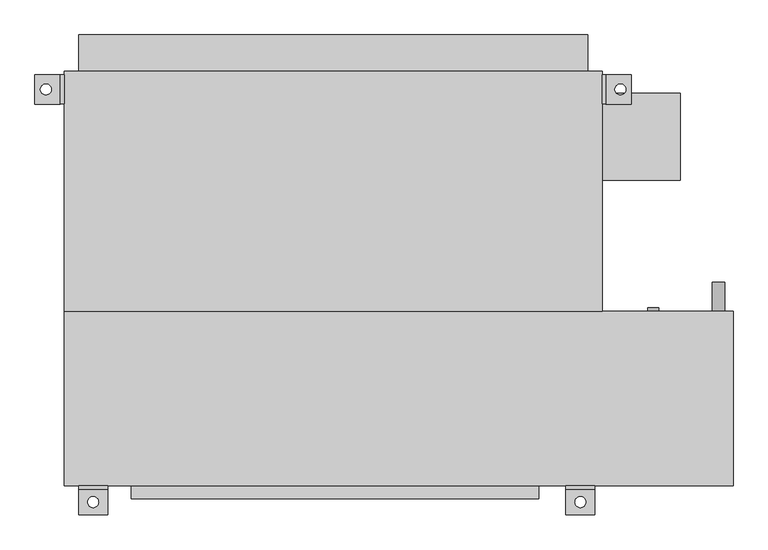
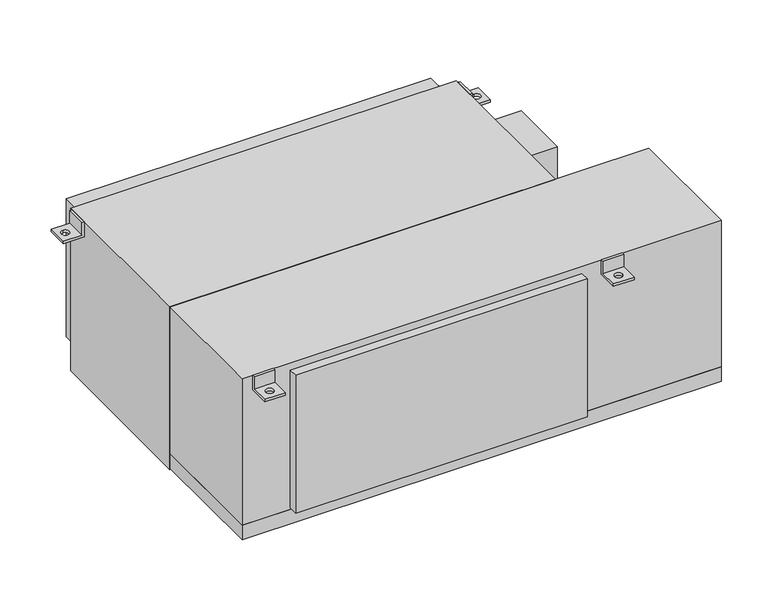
"""IFC4 building model written with IfcOpenShell, lengths in millimetres: proxy geometry, Concealed_High_Capacity_Horizontal_Fan_Coil_Unit_With_Plenum_-_42DCA_-_CARRIER_-_2-Pipe_Cool-EHeat_ValveEnclosure_RH_2022 : Size 12 - 277v/60Hz/1Ph - 6 Row 9.0kW."""

import ifcopenshell
import ifcopenshell.guid

model = None  # the IFC model being written
_history = None  # IfcOwnerHistory: only IFC2X3 demands one
_inside = {}  # id of a spatial element -> (the spatial element, [elements in it])
_under = {}  # id of a project, library or spatial element -> (it, [spatial elements below it])
_declared = {}  # id of a project -> (the project, [libraries it declares])
_typed = {}  # id of a type object -> (the type object, [elements of that type])
_made_of = {}  # id of a material, layer set ... -> (it, [elements and type objects made of it])


def new_model(schema):
    """Start an empty IFC model of exactly this schema.

    Asked for "IFC4X3", IfcOpenShell would pick the latest addendum, in which some entities
    have other attributes; the version numbers below select the first issue.
    IFC2X3 requires an IfcOwnerHistory on every rooted entity: one is made here for all.
    """
    global model, _history
    if schema == "IFC4X3":
        model = ifcopenshell.file(schema_version=(4, 3, 0, 0))
    else:
        model = ifcopenshell.file(schema=schema)
    _inside.clear()
    _under.clear()
    _declared.clear()
    _typed.clear()
    _made_of.clear()
    _history = None
    if model.schema == "IFC2X3":
        org = make("IfcOrganization", Name="unknown")
        user = make(
            "IfcPersonAndOrganization",
            ThePerson=make("IfcPerson", FamilyName="unknown"),
            TheOrganization=org,
        )
        app = make(
            "IfcApplication",
            ApplicationDeveloper=org,
            Version="unknown",
            ApplicationFullName="unknown",
            ApplicationIdentifier="unknown",
        )
        _history = make(
            "IfcOwnerHistory",
            OwningUser=user,
            OwningApplication=app,
            ChangeAction="ADDED",
            CreationDate=0,
        )
    return model


def make(cls, **values):
    """One entity of the class cls with the attributes given. An attribute that is None is left unset."""
    return model.create_entity(
        cls, **{name: value for name, value in values.items() if value is not None}
    )


def rooted(cls, **values):
    """An entity with a GlobalId (a new one), such as an element, a storey or a relation."""
    return make(cls, GlobalId=ifcopenshell.guid.new(), OwnerHistory=_history, **values)


def si_unit(unit_type, name, prefix=None):
    """IfcSIUnit, for example si_unit("LENGTHUNIT", "METRE", prefix="MILLI")."""
    return make("IfcSIUnit", UnitType=unit_type, Prefix=prefix, Name=name)


def assignment(units):
    """IfcUnitAssignment: the units of a project."""
    return None if units is None else make("IfcUnitAssignment", Units=units)


def point(xyz):
    """IfcCartesianPoint."""
    return None if xyz is None else make("IfcCartesianPoint", Coordinates=xyz)


def direction(xyz):
    """IfcDirection."""
    return None if xyz is None else make("IfcDirection", DirectionRatios=xyz)


def frame(location, z_axis=None, x_axis=None):
    """IfcAxis2Placement3D, a coordinate frame: its origin and axes. An axis left out is left unset."""
    return make(
        "IfcAxis2Placement3D",
        Location=point(location),
        Axis=direction(z_axis),
        RefDirection=direction(x_axis),
    )


def frame_2d(location, x_axis=None):
    """IfcAxis2Placement2D, a coordinate frame in the plane: its origin and x axis."""
    return make(
        "IfcAxis2Placement2D", Location=point(location), RefDirection=direction(x_axis)
    )


def origin():
    """The frame at (0, 0, 0) with its axes left unset."""
    return frame((0.0, 0.0, 0.0))


def place(relative_to, where):
    """IfcLocalPlacement: puts the frame where relative to a parent placement (None: the world)."""
    return make(
        "IfcLocalPlacement", PlacementRelTo=relative_to, RelativePlacement=where
    )


def context(
    kind, dimensions, precision=None, world=None, true_north=None, identifier=None
):
    """IfcGeometricRepresentationContext, for example the 3D "Model" context."""
    return make(
        "IfcGeometricRepresentationContext",
        ContextIdentifier=identifier,
        ContextType=kind,
        CoordinateSpaceDimension=dimensions,
        Precision=precision,
        WorldCoordinateSystem=world,
        TrueNorth=true_north,
    )


def project(units=None, contexts=None):
    """IfcProject with its units and contexts."""
    return rooted(
        "IfcProject",
        Name="project",
        RepresentationContexts=contexts,
        UnitsInContext=assignment(units),
    )


def spatial(cls, under=None, at=None, **own):
    """A site, building, storey or space (cls), placed at a placement, below another one or the project."""
    s = rooted(cls, ObjectPlacement=at, **own)
    if under is not None:
        _under.setdefault(under.id(), (under, []))[1].append(s)
    return s


def polyline(points):
    """IfcPolyline through the points."""
    return make("IfcPolyline", Points=[point(p) for p in points])


def circle_curve(where, radius):
    """IfcCircle in the frame where."""
    return make("IfcCircle", Position=where, Radius=radius)


def trimmed(basis, trim1, trim2, sense, master):
    """IfcTrimmedCurve: the piece of a basis curve between two trims."""
    return make(
        "IfcTrimmedCurve",
        BasisCurve=basis,
        Trim1=trim1,
        Trim2=trim2,
        SenseAgreement=sense,
        MasterRepresentation=master,
    )


def segment(curve, same_sense, transition):
    """IfcCompositeCurveSegment."""
    return make(
        "IfcCompositeCurveSegment",
        Transition=transition,
        SameSense=same_sense,
        ParentCurve=curve,
    )


def composite_curve(segments, self_intersect=None):
    """IfcCompositeCurve: segments joined end to end."""
    return make("IfcCompositeCurve", Segments=segments, SelfIntersect=self_intersect)


def outline(outer, holes=None, kind="AREA"):
    """IfcArbitraryClosedProfileDef: a profile drawn as a closed curve; with holes, ...WithVoids."""
    if holes is None:
        return make("IfcArbitraryClosedProfileDef", ProfileType=kind, OuterCurve=outer)
    return make(
        "IfcArbitraryProfileDefWithVoids",
        ProfileType=kind,
        OuterCurve=outer,
        InnerCurves=holes,
    )


def extrude(swept, where, along, depth):
    """IfcExtrudedAreaSolid: the profile swept, set in the frame where, extruded along a direction by depth."""
    return make(
        "IfcExtrudedAreaSolid",
        SweptArea=swept,
        Position=where,
        ExtrudedDirection=direction(along),
        Depth=depth,
    )


def shape(context_of_items, identifier, shape_type, items):
    """IfcShapeRepresentation: the items that make up one representation, for example the "Body"."""
    return make(
        "IfcShapeRepresentation",
        ContextOfItems=context_of_items,
        RepresentationIdentifier=identifier,
        RepresentationType=shape_type,
        Items=items,
    )


def source(mapping_origin, context_of_items, identifier, shape_type, items):
    """IfcRepresentationMap: a shape defined once, which mapped items show again and again."""
    return make(
        "IfcRepresentationMap",
        MappingOrigin=mapping_origin,
        MappedRepresentation=shape(context_of_items, identifier, shape_type, items),
    )


def transform(
    local_origin,
    x_axis=None,
    y_axis=None,
    z_axis=None,
    scale=None,
    scale2=None,
    scale3=None,
    uniform=True,
):
    """IfcCartesianTransformationOperator3D, or its non-uniform kind. x_axis, y_axis, z_axis: its Axis1, 2, 3."""
    if uniform:
        return make(
            "IfcCartesianTransformationOperator3D",
            Axis1=direction(x_axis),
            Axis2=direction(y_axis),
            LocalOrigin=point(local_origin),
            Scale=scale,
            Axis3=direction(z_axis),
        )
    return make(
        "IfcCartesianTransformationOperator3DnonUniform",
        Axis1=direction(x_axis),
        Axis2=direction(y_axis),
        LocalOrigin=point(local_origin),
        Scale=scale,
        Axis3=direction(z_axis),
        Scale2=scale2,
        Scale3=scale3,
    )


def mapped(mapping_source, mapping_target):
    """IfcMappedItem: shows the shape of a source again, moved by a transform."""
    return make(
        "IfcMappedItem", MappingSource=mapping_source, MappingTarget=mapping_target
    )


def made_of(thing, what):
    """Note that an element or type object is made of a material, layer set ...; save() writes the relation."""
    if what is not None:
        _made_of.setdefault(what.id(), (what, []))[1].append(thing)
    return thing


def element(
    cls,
    number,
    at=None,
    inside=None,
    cuts=None,
    type_object=None,
    material=None,
    context=None,
    identifier="Body",
    shape_type=None,
    held_by="IfcProductDefinitionShape",
    body=None,
    shapes=None,
    **own,
):
    """One element of the class cls, such as IfcWall. Its Tag is "e" and its number.

    at: its placement. inside: the storey or other place that contains it. cuts: it is an
    opening in that element (IfcRelVoidsElement). A single representation is given by context,
    identifier, shape_type and body (its items); several are given by shapes. held_by: the class
    of the entity that holds the representations. save() writes the other relations.
    """
    e = rooted(cls, Tag="e%d" % number, ObjectPlacement=at, **own)
    if body is not None:
        shapes = [shape(context, identifier, shape_type, body)]
    if shapes is not None:
        e.Representation = make(held_by, Representations=shapes)
    if inside is not None:
        _inside.setdefault(inside.id(), (inside, []))[1].append(e)
    if cuts is not None:
        rooted(
            "IfcRelVoidsElement", RelatingBuildingElement=cuts, RelatedOpeningElement=e
        )
    if type_object is not None:
        _typed.setdefault(type_object.id(), (type_object, []))[1].append(e)
    return made_of(e, material)


def aggregate(whole, parts):
    """IfcRelAggregates: a whole, such as a stair, and the parts it consists of."""
    return rooted("IfcRelAggregates", RelatingObject=whole, RelatedObjects=parts)


def save(model, path):
    """Write the relations noted so far, then the file.

    IfcRelAggregates (storeys below a building ...), IfcRelContainedInSpatialStructure (elements
    in a storey), IfcRelDefinesByType, IfcRelAssociatesMaterial and IfcRelDeclares: one each for
    every whole, place, type object, material and project.
    """
    for whole, parts in _under.values():
        aggregate(whole, parts)
    for where, things in _inside.values():
        rooted(
            "IfcRelContainedInSpatialStructure",
            RelatedElements=things,
            RelatingStructure=where,
        )
    for kind, things in _typed.values():
        rooted("IfcRelDefinesByType", RelatedObjects=things, RelatingType=kind)
    for what, things in _made_of.values():
        rooted("IfcRelAssociatesMaterial", RelatedObjects=things, RelatingMaterial=what)
    for by, libraries in _declared.values():
        rooted("IfcRelDeclares", RelatingContext=by, RelatedDefinitions=libraries)
    model.write(path)


def plane_surface(at):
    """IfcPlane: the flat surface through the origin of the frame at, square to its z axis."""
    return make("IfcPlane", Position=at)


def revolved_surface(curve, axis_point, axis_direction):
    """IfcSurfaceOfRevolution: the curve turned about the line through axis_point along axis_direction."""
    return make(
        "IfcSurfaceOfRevolution",
        SweptCurve=make("IfcArbitraryOpenProfileDef", ProfileType="CURVE", Curve=curve),
        AxisPosition=make("IfcAxis1Placement", Location=point(axis_point), Axis=direction(axis_direction)),
    )


def advanced_brep(points, edges, surfaces, faces):
    """IfcAdvancedBrep: a solid bounded by faces that lie on surfaces and meet in shared edges.

    An edge is (start, end): straight between two places in points (the first is 0);
    or (start, end, curve); or (start, end, curve, False) where it runs against its curve.
    A face is (place in surfaces, loops), or (place, loops, False) where it looks against
    its surface's normal. A loop lists edges by number (the first is 1), with a minus sign
    where the edge is run from its end to its start. The first loop is the outer one.
    """
    corners = [point(p) for p in points]
    vertices = [make("IfcVertexPoint", VertexGeometry=c) for c in corners]
    made = []
    for start, end, *more in edges:
        made.append(
            make(
                "IfcEdgeCurve",
                EdgeStart=vertices[start],
                EdgeEnd=vertices[end],
                EdgeGeometry=more[0] if more else make("IfcPolyline", Points=[corners[start], corners[end]]),
                SameSense=more[1] if len(more) > 1 else True,
            )
        )
    hull = []
    for where, loops, *sense in faces:
        bounds = []
        for j, loop in enumerate(loops):
            ring = [make("IfcOrientedEdge", EdgeElement=made[abs(k) - 1], Orientation=k > 0) for k in loop]
            bounds.append(
                make(
                    "IfcFaceOuterBound" if j == 0 else "IfcFaceBound",
                    Bound=make("IfcEdgeLoop", EdgeList=ring),
                    Orientation=True,
                )
            )
        hull.append(make("IfcAdvancedFace", Bounds=bounds, FaceSurface=surfaces[where], SameSense=sense[0] if sense else True))
    return make("IfcAdvancedBrep", Outer=make("IfcClosedShell", CfsFaces=hull))


def mechanical_equipment_d50c850d(model_context):
    return source(origin(), model_context, "Body", "SolidModel", [
        advanced_brep(
        [(609.6, -390.525, 0.0), (609.6, -396.875, 0.0), (609.6, -396.875, -31.75), (609.6, -441.325, -31.75), (609.6, -441.325, -38.1), (609.6, -390.525, -38.1), (558.8, -390.525, 0.0), (558.8, -390.525, -38.1), (558.8, -441.325, -38.1), (558.8, -441.325, -31.75), (558.8, -396.875, -31.75), (558.8, -396.875, 0.0), (574.675, -419.1, -31.75), (593.725, -419.1, -31.75), (593.725, -419.1, -38.1), (574.675, -419.1, -38.1)],
        [
            (0, 1),
            (1, 2),
            (2, 3),
            (3, 4),
            (4, 5),
            (5, 0),
            (6, 7),
            (7, 8),
            (8, 9),
            (9, 10),
            (10, 11),
            (11, 6),
            (0, 6),
            (11, 1),
            (10, 2),
            (9, 3),
            (12, 13, circle_curve(frame((584.2, -419.1, -31.75), z_axis=(0.0, 0.0, -1.0), x_axis=(1.0, 0.0, 0.0)), 9.525)),
            (13, 12, circle_curve(frame((584.2, -419.1, -31.75), z_axis=(0.0, 0.0, -1.0), x_axis=(1.0, 0.0, 0.0)), 9.525)),
            (8, 4),
            (7, 5),
            (14, 15, circle_curve(frame((584.2, -419.1, -38.1), z_axis=(0.0, 0.0, 1.0), x_axis=(1.0, 0.0, 0.0)), 9.525)),
            (15, 14, circle_curve(frame((584.2, -419.1, -38.1), z_axis=(0.0, 0.0, 1.0), x_axis=(1.0, 0.0, 0.0)), 9.525)),
            (12, 15),
            (14, 13),
        ],
        [
            plane_surface(frame((609.6, -396.875, 0.0), z_axis=(1.0, 0.0, 0.0), x_axis=(0.0, -1.0, 0.0))),
            plane_surface(frame((558.8, -396.875, 0.0), z_axis=(-1.0, 0.0, 0.0), x_axis=(0.0, 1.0, 0.0))),
            plane_surface(frame((609.6, -390.525, 0.0), z_axis=(0.0, 0.0, 1.0), x_axis=(-1.0, 0.0, 0.0))),
            plane_surface(frame((609.6, -396.875, 0.0), z_axis=(0.0, -1.0, 0.0), x_axis=(-1.0, 0.0, 0.0))),
            plane_surface(frame((609.6, -396.875, -31.75), z_axis=(0.0, 0.0, 1.0), x_axis=(-1.0, 0.0, 0.0))),
            plane_surface(frame((609.6, -441.325, -31.75), z_axis=(0.0, -1.0, 0.0), x_axis=(-1.0, 0.0, 0.0))),
            plane_surface(frame((609.6, -441.325, -38.1), z_axis=(0.0, 0.0, -1.0), x_axis=(-1.0, 0.0, 0.0))),
            plane_surface(frame((609.6, -390.525, -38.1), z_axis=(0.0, 1.0, 0.0), x_axis=(-1.0, 0.0, 0.0))),
            revolved_surface(polyline([(593.725, -419.1, -38.1), (593.725, -419.1, -31.75)]), (584.2, -419.1, -31.75), (0.0, 0.0, -1.0)),
        ],
        [
            (0, [[1, 2, 3, 4, 5, 6]]),
            (1, [[7, 8, 9, 10, 11, 12]]),
            (2, [[-1, 13, -12, 14]]),
            (3, [[-2, -14, -11, 15]]),
            (4, [[-3, -15, -10, 16], [17, 18]]),
            (5, [[-4, -16, -9, 19]]),
            (6, [[-5, -19, -8, 20], [21, 22]]),
            (7, [[-6, -20, -7, -13]]),
            (8, [[23, -21, 24, -17]]),
            (8, [[-23, -18, -24, -22]]),
        ],
    ),
        advanced_brep(
        [(-241.3, -390.525, -38.1), (-241.3, -390.525, 0.0), (-241.3, -396.875, 0.0), (-241.3, -396.875, -31.75), (-241.3, -441.325, -31.75), (-241.3, -441.325, -38.1), (-292.1, -390.525, -38.1), (-292.1, -441.325, -38.1), (-292.1, -441.325, -31.75), (-292.1, -396.875, -31.75), (-292.1, -396.875, 0.0), (-292.1, -390.525, 0.0), (-276.225, -419.1, -31.75), (-257.175, -419.1, -31.75), (-257.175, -419.1, -38.1), (-276.225, -419.1, -38.1)],
        [
            (0, 1),
            (1, 2),
            (2, 3),
            (3, 4),
            (4, 5),
            (5, 0),
            (6, 7),
            (7, 8),
            (8, 9),
            (9, 10),
            (10, 11),
            (11, 6),
            (0, 6),
            (11, 1),
            (10, 2),
            (9, 3),
            (8, 4),
            (12, 13, circle_curve(frame((-266.7, -419.1, -31.75), z_axis=(0.0, 0.0, -1.0), x_axis=(1.0, 0.0, 0.0)), 9.525)),
            (13, 12, circle_curve(frame((-266.7, -419.1, -31.75), z_axis=(0.0, 0.0, -1.0), x_axis=(1.0, 0.0, 0.0)), 9.525)),
            (7, 5),
            (14, 15, circle_curve(frame((-266.7, -419.1, -38.1), z_axis=(0.0, 0.0, 1.0), x_axis=(1.0, 0.0, 0.0)), 9.525)),
            (15, 14, circle_curve(frame((-266.7, -419.1, -38.1), z_axis=(0.0, 0.0, 1.0), x_axis=(1.0, 0.0, 0.0)), 9.525)),
            (12, 15),
            (14, 13),
        ],
        [
            plane_surface(frame((-241.3, -390.525, -38.1), z_axis=(1.0, 0.0, 0.0), x_axis=(0.0, 0.0, 1.0))),
            plane_surface(frame((-292.1, -390.525, -38.1), z_axis=(-1.0, 0.0, 0.0), x_axis=(0.0, 0.0, -1.0))),
            plane_surface(frame((-241.3, -390.525, -38.1), z_axis=(0.0, 1.0, 0.0), x_axis=(-1.0, 0.0, 0.0))),
            plane_surface(frame((-241.3, -390.525, 0.0), z_axis=(0.0, 0.0, 1.0), x_axis=(-1.0, 0.0, 0.0))),
            plane_surface(frame((-241.3, -396.875, 0.0), z_axis=(0.0, -1.0, 0.0), x_axis=(-1.0, 0.0, 0.0))),
            plane_surface(frame((-241.3, -396.875, -31.75), z_axis=(0.0, 0.0, 1.0), x_axis=(-1.0, 0.0, 0.0))),
            plane_surface(frame((-241.3, -441.325, -31.75), z_axis=(0.0, -1.0, 0.0), x_axis=(-1.0, 0.0, 0.0))),
            plane_surface(frame((-241.3, -441.325, -38.1), z_axis=(0.0, 0.0, -1.0), x_axis=(-1.0, 0.0, 0.0))),
            revolved_surface(polyline([(-257.175, -419.1, -38.1), (-257.175, -419.1, -31.75)]), (-266.7, -419.1, -31.75), (0.0, 0.0, -1.0)),
        ],
        [
            (0, [[1, 2, 3, 4, 5, 6]]),
            (1, [[7, 8, 9, 10, 11, 12]]),
            (2, [[-1, 13, -12, 14]]),
            (3, [[-2, -14, -11, 15]]),
            (4, [[-3, -15, -10, 16]]),
            (5, [[-4, -16, -9, 17], [18, 19]]),
            (6, [[-5, -17, -8, 20]]),
            (7, [[-6, -20, -7, -13], [21, 22]]),
            (8, [[23, -21, 24, -18]]),
            (8, [[-23, -19, -24, -22]]),
        ],
    ),
        extrude(outline(composite_curve([segment(trimmed(circle_curve(frame_2d((-400.05, 825.5)), 11.1125), [point((-400.05, 814.3875))], [point((-400.05, 836.6125))], False, "CARTESIAN"), True, "CONTINUOUS"), segment(trimmed(circle_curve(frame_2d((-400.05, 825.5)), 11.1125), [point((-400.05, 836.6125))], [point((-400.05, 814.3875))], False, "CARTESIAN"), True, "CONTINUOUS")], self_intersect=False)), frame((0.0, -85.725, 0.0), z_axis=(0.0, 1.0, 0.0), x_axis=(0.0, 0.0, 1.0)), (0.0, 0.0, 1.0), 50.8),
        extrude(outline(composite_curve([segment(trimmed(circle_curve(frame_2d((-44.45, 711.2)), 9.525), [point((-44.45, 701.675))], [point((-44.45, 720.725))], False, "CARTESIAN"), True, "CONTINUOUS"), segment(trimmed(circle_curve(frame_2d((-44.45, 711.2)), 9.525), [point((-44.45, 720.725))], [point((-44.45, 701.675))], False, "CARTESIAN"), True, "CONTINUOUS")], self_intersect=False)), frame((0.0, -85.725, 0.0), z_axis=(0.0, 1.0, 0.0), x_axis=(0.0, 0.0, 1.0)), (0.0, 0.0, 1.0), 6.35),
        extrude(outline(composite_curve([segment(trimmed(circle_curve(frame_2d((-276.225, 711.2)), 9.525), [point((-276.225, 701.675))], [point((-276.225, 720.725))], False, "CARTESIAN"), True, "CONTINUOUS"), segment(trimmed(circle_curve(frame_2d((-276.225, 711.2)), 9.525), [point((-276.225, 720.725))], [point((-276.225, 701.675))], False, "CARTESIAN"), True, "CONTINUOUS")], self_intersect=False)), frame((0.0, -85.725, 0.0), z_axis=(0.0, 1.0, 0.0), x_axis=(0.0, 0.0, 1.0)), (0.0, 0.0, 1.0), 6.35),
        advanced_brep(
        [(-317.5, 327.025, -38.1), (-368.3, 327.025, -38.1), (-368.3, 327.025, -31.75), (-323.85, 327.025, -31.75), (-323.85, 327.025, 0.0), (-317.5, 327.025, 0.0), (-317.5, 276.225, -38.1), (-317.5, 276.225, 0.0), (-323.85, 276.225, 0.0), (-323.85, 276.225, -31.75), (-368.3, 276.225, -31.75), (-368.3, 276.225, -38.1), (-349.25, 292.1, -38.1), (-349.25, 311.15, -38.1), (-349.25, 311.15, -31.75), (-349.25, 292.1, -31.75)],
        [
            (0, 1),
            (1, 2),
            (2, 3),
            (3, 4),
            (4, 5),
            (5, 0),
            (6, 7),
            (7, 8),
            (8, 9),
            (9, 10),
            (10, 11),
            (11, 6),
            (0, 6),
            (11, 1),
            (12, 13, circle_curve(frame((-349.25, 301.625, -38.1), z_axis=(0.0, 0.0, 1.0), x_axis=(0.0, -1.0, 0.0)), 9.525)),
            (13, 12, circle_curve(frame((-349.25, 301.625, -38.1), z_axis=(0.0, 0.0, 1.0), x_axis=(0.0, -1.0, 0.0)), 9.525)),
            (10, 2),
            (9, 3),
            (14, 15, circle_curve(frame((-349.25, 301.625, -31.75), z_axis=(0.0, 0.0, -1.0), x_axis=(0.0, -1.0, 0.0)), 9.525)),
            (15, 14, circle_curve(frame((-349.25, 301.625, -31.75), z_axis=(0.0, 0.0, -1.0), x_axis=(0.0, -1.0, 0.0)), 9.525)),
            (8, 4),
            (7, 5),
            (14, 13),
            (12, 15),
        ],
        [
            plane_surface(frame((-317.5, 327.025, -38.1), z_axis=(0.0, 1.0, 0.0), x_axis=(-1.0, 0.0, 0.0))),
            plane_surface(frame((-317.5, 276.225, -38.1), z_axis=(0.0, -1.0, 0.0), x_axis=(1.0, 0.0, 0.0))),
            plane_surface(frame((-317.5, 327.025, -38.1), z_axis=(0.0, 0.0, -1.0), x_axis=(0.0, -1.0, 0.0))),
            plane_surface(frame((-368.3, 327.025, -38.1), z_axis=(-1.0, 0.0, 0.0), x_axis=(0.0, -1.0, 0.0))),
            plane_surface(frame((-368.3, 327.025, -31.75), z_axis=(0.0, 0.0, 1.0), x_axis=(0.0, -1.0, 0.0))),
            plane_surface(frame((-323.85, 327.025, -31.75), z_axis=(-1.0, 0.0, 0.0), x_axis=(0.0, -1.0, 0.0))),
            plane_surface(frame((-323.85, 327.025, 0.0), z_axis=(0.0, 0.0, 1.0), x_axis=(0.0, -1.0, 0.0))),
            plane_surface(frame((-317.5, 327.025, 0.0), z_axis=(1.0, 0.0, 0.0), x_axis=(0.0, -1.0, 0.0))),
            revolved_surface(polyline([(-349.25, 292.1, -38.1), (-349.25, 292.1, -31.75)]), (-349.25, 301.625, -31.75), (0.0, 0.0, -1.0)),
        ],
        [
            (0, [[1, 2, 3, 4, 5, 6]]),
            (1, [[7, 8, 9, 10, 11, 12]]),
            (2, [[-1, 13, -12, 14], [15, 16]]),
            (3, [[-2, -14, -11, 17]]),
            (4, [[-3, -17, -10, 18], [19, 20]]),
            (5, [[-4, -18, -9, 21]]),
            (6, [[-5, -21, -8, 22]]),
            (7, [[-6, -22, -7, -13]]),
            (8, [[23, -15, 24, -19]]),
            (8, [[-23, -20, -24, -16]]),
        ],
    ),
        advanced_brep(
        [(622.3, 327.025, -38.1), (622.3, 327.025, 0.0), (628.65, 327.025, 0.0), (628.65, 327.025, -31.75), (673.1, 327.025, -31.75), (673.1, 327.025, -38.1), (622.3, 276.225, -38.1), (673.1, 276.225, -38.1), (673.1, 276.225, -31.75), (628.65, 276.225, -31.75), (628.65, 276.225, 0.0), (622.3, 276.225, 0.0), (654.05, 311.15, -31.75), (654.05, 292.1, -31.75), (654.05, 292.1, -38.1), (654.05, 311.15, -38.1)],
        [
            (0, 1),
            (1, 2),
            (2, 3),
            (3, 4),
            (4, 5),
            (5, 0),
            (6, 7),
            (7, 8),
            (8, 9),
            (9, 10),
            (10, 11),
            (11, 6),
            (0, 6),
            (11, 1),
            (10, 2),
            (9, 3),
            (8, 4),
            (12, 13, circle_curve(frame((654.05, 301.625, -31.75), z_axis=(0.0, 0.0, -1.0), x_axis=(0.0, -1.0, 0.0)), 9.525)),
            (13, 12, circle_curve(frame((654.05, 301.625, -31.75), z_axis=(0.0, 0.0, -1.0), x_axis=(0.0, -1.0, 0.0)), 9.525)),
            (7, 5),
            (14, 15, circle_curve(frame((654.05, 301.625, -38.1), z_axis=(0.0, 0.0, 1.0), x_axis=(0.0, -1.0, 0.0)), 9.525)),
            (15, 14, circle_curve(frame((654.05, 301.625, -38.1), z_axis=(0.0, 0.0, 1.0), x_axis=(0.0, -1.0, 0.0)), 9.525)),
            (12, 15),
            (14, 13),
        ],
        [
            plane_surface(frame((-317.5, 327.025, -38.1), z_axis=(0.0, 1.0, 0.0), x_axis=(-1.0, 0.0, 0.0))),
            plane_surface(frame((-317.5, 276.225, -38.1), z_axis=(0.0, -1.0, 0.0), x_axis=(1.0, 0.0, 0.0))),
            plane_surface(frame((622.3, 327.025, -38.1), z_axis=(-1.0, 0.0, 0.0), x_axis=(0.0, -1.0, 0.0))),
            plane_surface(frame((622.3, 327.025, 0.0), z_axis=(0.0, 0.0, 1.0), x_axis=(0.0, -1.0, 0.0))),
            plane_surface(frame((628.65, 327.025, 0.0), z_axis=(1.0, 0.0, 0.0), x_axis=(0.0, -1.0, 0.0))),
            plane_surface(frame((628.65, 327.025, -31.75), z_axis=(0.0, 0.0, 1.0), x_axis=(0.0, -1.0, 0.0))),
            plane_surface(frame((673.1, 327.025, -31.75), z_axis=(1.0, 0.0, 0.0), x_axis=(0.0, -1.0, 0.0))),
            plane_surface(frame((673.1, 327.025, -38.1), z_axis=(0.0, 0.0, -1.0), x_axis=(0.0, -1.0, 0.0))),
            revolved_surface(polyline([(654.05, 292.1, -38.1), (654.05, 292.1, -31.75)]), (654.05, 301.625, -31.75), (0.0, 0.0, -1.0)),
        ],
        [
            (0, [[1, 2, 3, 4, 5, 6]]),
            (1, [[7, 8, 9, 10, 11, 12]]),
            (2, [[-1, 13, -12, 14]]),
            (3, [[-2, -14, -11, 15]]),
            (4, [[-3, -15, -10, 16]]),
            (5, [[-4, -16, -9, 17], [18, 19]]),
            (6, [[-5, -17, -8, 20]]),
            (7, [[-6, -20, -7, -13], [21, 22]]),
            (8, [[23, -21, 24, -18]]),
            (8, [[-23, -19, -24, -22]]),
        ],
    ),
        extrude(outline(polyline([(-292.1, 396.875), (596.9, 396.875), (596.9, 333.375), (-292.1, 333.375), (-292.1, 396.875)])), frame((0.0, 0.0, -377.825), z_axis=(0.0, 0.0, 1.0), x_axis=(1.0, 0.0, 0.0)), (0.0, 0.0, 1.0), 355.6),
        extrude(outline(polyline([(758.825, 295.275), (758.825, 142.875), (622.3, 142.875), (622.3, 295.275), (758.825, 295.275)])), frame((0.0, 0.0, -254.0), z_axis=(0.0, 0.0, 1.0), x_axis=(1.0, 0.0, 0.0)), (0.0, 0.0, 1.0), 152.4),
        extrude(outline(polyline([(511.175, -412.75), (-200.025, -412.75), (-200.025, -390.525), (511.175, -390.525), (511.175, -412.75)])), frame((0.0, 0.0, -374.65), z_axis=(0.0, 0.0, 1.0), x_axis=(1.0, 0.0, 0.0)), (0.0, 0.0, 1.0), 355.6),
        extrude(outline(polyline([(622.3, -85.725), (-317.5, -85.725), (-317.5, 333.375), (622.3, 333.375), (622.3, -85.725)])), frame((0.0, 0.0, -419.1), z_axis=(0.0, 0.0, 1.0), x_axis=(1.0, 0.0, 0.0)), (0.0, 0.0, 1.0), 419.1),
        extrude(outline(polyline([(850.9, -85.725), (850.9, -390.525), (-317.5, -390.525), (-317.5, -85.725), (850.9, -85.725)])), frame((0.0, 0.0, -377.825), z_axis=(0.0, 0.0, 1.0), x_axis=(1.0, 0.0, 0.0)), (0.0, 0.0, 1.0), 377.825),
        extrude(outline(polyline([(850.9, -85.725), (850.9, -390.525), (-317.5, -390.525), (-317.5, -85.725), (850.9, -85.725)])), frame((0.0, 0.0, -415.925), z_axis=(0.0, 0.0, 1.0), x_axis=(1.0, 0.0, 0.0)), (0.0, 0.0, 1.0), 38.1),
    ])


if __name__ == "__main__":
    model = new_model("IFC4")
    model_context = context("Model", 3, world=origin())
    ifc_project = project(units=[si_unit("LENGTHUNIT", "METRE", prefix="MILLI")], contexts=[model_context])
    site = spatial("IfcSite", under=ifc_project)
    building = spatial("IfcBuilding", under=site)
    placement = place(None, origin())
    mechanical_equipment_shape = mechanical_equipment_d50c850d(model_context)
    element("IfcBuildingElementProxy", 1, Name="Concealed_High_Capacity_Horizontal_Fan_Coil_Unit_With_Plenum_-_42DCA_-_CARRIER_-_2-Pipe_Cool-EHeat_ValveEnclosure_RH_2022 : Size 12 - 277v/60Hz/1Ph - 6 Row 9.0kW", ObjectType="Concealed_High_Capacity_Horizontal_Fan_Coil_Unit_With_Plenum_-_42DCA_-_CARRIER_-_2-Pipe_Cool-EHeat_ValveEnclosure_RH_2022 : Size 12 - 277v/60Hz/1Ph - 6 Row 9.0kW", at=placement, inside=building, context=model_context, shape_type="MappedRepresentation", body=[
        mapped(mechanical_equipment_shape, transform((0.0, 0.0, 0.0), x_axis=(1.0, 0.0, 0.0), y_axis=(0.0, 1.0, 0.0), z_axis=(0.0, 0.0, 1.0))),
    ])
    save(model, "model.ifc")
